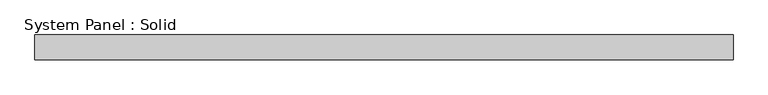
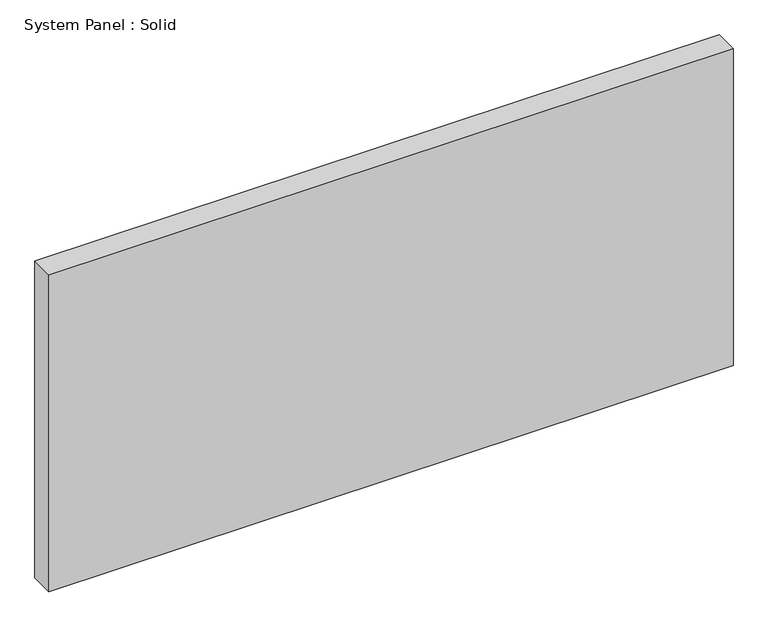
"""IFC4 building model written with IfcOpenShell, lengths in millimetres: plate geometry, System Panel : Solid."""

import ifcopenshell
import ifcopenshell.guid

model = None  # the IFC model being written
_history = None  # IfcOwnerHistory: only IFC2X3 demands one
_inside = {}  # id of a spatial element -> (the spatial element, [elements in it])
_under = {}  # id of a project, library or spatial element -> (it, [spatial elements below it])
_declared = {}  # id of a project -> (the project, [libraries it declares])
_typed = {}  # id of a type object -> (the type object, [elements of that type])
_made_of = {}  # id of a material, layer set ... -> (it, [elements and type objects made of it])


def new_model(schema):
    """Start an empty IFC model of exactly this schema.

    Asked for "IFC4X3", IfcOpenShell would pick the latest addendum, in which some entities
    have other attributes; the version numbers below select the first issue.
    IFC2X3 requires an IfcOwnerHistory on every rooted entity: one is made here for all.
    """
    global model, _history
    if schema == "IFC4X3":
        model = ifcopenshell.file(schema_version=(4, 3, 0, 0))
    else:
        model = ifcopenshell.file(schema=schema)
    _inside.clear()
    _under.clear()
    _declared.clear()
    _typed.clear()
    _made_of.clear()
    _history = None
    if model.schema == "IFC2X3":
        org = make("IfcOrganization", Name="unknown")
        user = make(
            "IfcPersonAndOrganization",
            ThePerson=make("IfcPerson", FamilyName="unknown"),
            TheOrganization=org,
        )
        app = make(
            "IfcApplication",
            ApplicationDeveloper=org,
            Version="unknown",
            ApplicationFullName="unknown",
            ApplicationIdentifier="unknown",
        )
        _history = make(
            "IfcOwnerHistory",
            OwningUser=user,
            OwningApplication=app,
            ChangeAction="ADDED",
            CreationDate=0,
        )
    return model


def make(cls, **values):
    """One entity of the class cls with the attributes given. An attribute that is None is left unset."""
    return model.create_entity(
        cls, **{name: value for name, value in values.items() if value is not None}
    )


def rooted(cls, **values):
    """An entity with a GlobalId (a new one), such as an element, a storey or a relation."""
    return make(cls, GlobalId=ifcopenshell.guid.new(), OwnerHistory=_history, **values)


def si_unit(unit_type, name, prefix=None):
    """IfcSIUnit, for example si_unit("LENGTHUNIT", "METRE", prefix="MILLI")."""
    return make("IfcSIUnit", UnitType=unit_type, Prefix=prefix, Name=name)


def assignment(units):
    """IfcUnitAssignment: the units of a project."""
    return None if units is None else make("IfcUnitAssignment", Units=units)


def point(xyz):
    """IfcCartesianPoint."""
    return None if xyz is None else make("IfcCartesianPoint", Coordinates=xyz)


def direction(xyz):
    """IfcDirection."""
    return None if xyz is None else make("IfcDirection", DirectionRatios=xyz)


def frame(location, z_axis=None, x_axis=None):
    """IfcAxis2Placement3D, a coordinate frame: its origin and axes. An axis left out is left unset."""
    return make(
        "IfcAxis2Placement3D",
        Location=point(location),
        Axis=direction(z_axis),
        RefDirection=direction(x_axis),
    )


def origin():
    """The frame at (0, 0, 0) with its axes left unset."""
    return frame((0.0, 0.0, 0.0))


def origin_with_axes():
    """The frame at (0, 0, 0) with the z axis (0, 0, 1) and the x axis (1, 0, 0) written out."""
    return frame((0.0, 0.0, 0.0), z_axis=(0.0, 0.0, 1.0), x_axis=(1.0, 0.0, 0.0))


def place(relative_to, where):
    """IfcLocalPlacement: puts the frame where relative to a parent placement (None: the world)."""
    return make(
        "IfcLocalPlacement", PlacementRelTo=relative_to, RelativePlacement=where
    )


def context(
    kind, dimensions, precision=None, world=None, true_north=None, identifier=None
):
    """IfcGeometricRepresentationContext, for example the 3D "Model" context."""
    return make(
        "IfcGeometricRepresentationContext",
        ContextIdentifier=identifier,
        ContextType=kind,
        CoordinateSpaceDimension=dimensions,
        Precision=precision,
        WorldCoordinateSystem=world,
        TrueNorth=true_north,
    )


def project(units=None, contexts=None):
    """IfcProject with its units and contexts."""
    return rooted(
        "IfcProject",
        Name="project",
        RepresentationContexts=contexts,
        UnitsInContext=assignment(units),
    )


def spatial(cls, under=None, at=None, **own):
    """A site, building, storey or space (cls), placed at a placement, below another one or the project."""
    s = rooted(cls, ObjectPlacement=at, **own)
    if under is not None:
        _under.setdefault(under.id(), (under, []))[1].append(s)
    return s


def polyline(points):
    """IfcPolyline through the points."""
    return make("IfcPolyline", Points=[point(p) for p in points])


def outline(outer, holes=None, kind="AREA"):
    """IfcArbitraryClosedProfileDef: a profile drawn as a closed curve; with holes, ...WithVoids."""
    if holes is None:
        return make("IfcArbitraryClosedProfileDef", ProfileType=kind, OuterCurve=outer)
    return make(
        "IfcArbitraryProfileDefWithVoids",
        ProfileType=kind,
        OuterCurve=outer,
        InnerCurves=holes,
    )


def extrude(swept, where, along, depth):
    """IfcExtrudedAreaSolid: the profile swept, set in the frame where, extruded along a direction by depth."""
    return make(
        "IfcExtrudedAreaSolid",
        SweptArea=swept,
        Position=where,
        ExtrudedDirection=direction(along),
        Depth=depth,
    )


def shape(context_of_items, identifier, shape_type, items):
    """IfcShapeRepresentation: the items that make up one representation, for example the "Body"."""
    return make(
        "IfcShapeRepresentation",
        ContextOfItems=context_of_items,
        RepresentationIdentifier=identifier,
        RepresentationType=shape_type,
        Items=items,
    )


def source(mapping_origin, context_of_items, identifier, shape_type, items):
    """IfcRepresentationMap: a shape defined once, which mapped items show again and again."""
    return make(
        "IfcRepresentationMap",
        MappingOrigin=mapping_origin,
        MappedRepresentation=shape(context_of_items, identifier, shape_type, items),
    )


def transform(
    local_origin,
    x_axis=None,
    y_axis=None,
    z_axis=None,
    scale=None,
    scale2=None,
    scale3=None,
    uniform=True,
):
    """IfcCartesianTransformationOperator3D, or its non-uniform kind. x_axis, y_axis, z_axis: its Axis1, 2, 3."""
    if uniform:
        return make(
            "IfcCartesianTransformationOperator3D",
            Axis1=direction(x_axis),
            Axis2=direction(y_axis),
            LocalOrigin=point(local_origin),
            Scale=scale,
            Axis3=direction(z_axis),
        )
    return make(
        "IfcCartesianTransformationOperator3DnonUniform",
        Axis1=direction(x_axis),
        Axis2=direction(y_axis),
        LocalOrigin=point(local_origin),
        Scale=scale,
        Axis3=direction(z_axis),
        Scale2=scale2,
        Scale3=scale3,
    )


def mapped(mapping_source, mapping_target):
    """IfcMappedItem: shows the shape of a source again, moved by a transform."""
    return make(
        "IfcMappedItem", MappingSource=mapping_source, MappingTarget=mapping_target
    )


def made_of(thing, what):
    """Note that an element or type object is made of a material, layer set ...; save() writes the relation."""
    if what is not None:
        _made_of.setdefault(what.id(), (what, []))[1].append(thing)
    return thing


def element(
    cls,
    number,
    at=None,
    inside=None,
    cuts=None,
    type_object=None,
    material=None,
    context=None,
    identifier="Body",
    shape_type=None,
    held_by="IfcProductDefinitionShape",
    body=None,
    shapes=None,
    **own,
):
    """One element of the class cls, such as IfcWall. Its Tag is "e" and its number.

    at: its placement. inside: the storey or other place that contains it. cuts: it is an
    opening in that element (IfcRelVoidsElement). A single representation is given by context,
    identifier, shape_type and body (its items); several are given by shapes. held_by: the class
    of the entity that holds the representations. save() writes the other relations.
    """
    e = rooted(cls, Tag="e%d" % number, ObjectPlacement=at, **own)
    if body is not None:
        shapes = [shape(context, identifier, shape_type, body)]
    if shapes is not None:
        e.Representation = make(held_by, Representations=shapes)
    if inside is not None:
        _inside.setdefault(inside.id(), (inside, []))[1].append(e)
    if cuts is not None:
        rooted(
            "IfcRelVoidsElement", RelatingBuildingElement=cuts, RelatedOpeningElement=e
        )
    if type_object is not None:
        _typed.setdefault(type_object.id(), (type_object, []))[1].append(e)
    return made_of(e, material)


def aggregate(whole, parts):
    """IfcRelAggregates: a whole, such as a stair, and the parts it consists of."""
    return rooted("IfcRelAggregates", RelatingObject=whole, RelatedObjects=parts)


def save(model, path):
    """Write the relations noted so far, then the file.

    IfcRelAggregates (storeys below a building ...), IfcRelContainedInSpatialStructure (elements
    in a storey), IfcRelDefinesByType, IfcRelAssociatesMaterial and IfcRelDeclares: one each for
    every whole, place, type object, material and project.
    """
    for whole, parts in _under.values():
        aggregate(whole, parts)
    for where, things in _inside.values():
        rooted(
            "IfcRelContainedInSpatialStructure",
            RelatedElements=things,
            RelatingStructure=where,
        )
    for kind, things in _typed.values():
        rooted("IfcRelDefinesByType", RelatedObjects=things, RelatingType=kind)
    for what, things in _made_of.values():
        rooted("IfcRelAssociatesMaterial", RelatedObjects=things, RelatingMaterial=what)
    for by, libraries in _declared.values():
        rooted("IfcRelDeclares", RelatingContext=by, RelatedDefinitions=libraries)
    model.write(path)


def system_panel_solid_f70b4fc8(model_context):
    return source(origin(), model_context, "Body", "SweptSolid", [
        extrude(outline(polyline([(891.9986512, -19.05), (-891.9986512, -19.05), (-891.9986512, 44.45), (891.9986512, 44.45), (891.9986512, -19.05)])), origin_with_axes(), (0.0, 0.0, 1.0), 873.1346896),
    ])


if __name__ == "__main__":
    model = new_model("IFC4")
    model_context = context("Model", 3, world=origin())
    ifc_project = project(units=[si_unit("LENGTHUNIT", "METRE", prefix="MILLI")], contexts=[model_context])
    site = spatial("IfcSite", under=ifc_project)
    building = spatial("IfcBuilding", under=site)
    placement = place(None, origin())
    system_panel_solid_shape = system_panel_solid_f70b4fc8(model_context)
    element("IfcPlate", 1, ObjectType="System Panel : Solid", at=placement, inside=building, context=model_context, shape_type="MappedRepresentation", body=[
        mapped(system_panel_solid_shape, transform((0.0, 0.0, 0.0), x_axis=(1.0, 0.0, 0.0), y_axis=(0.0, 1.0, 0.0), z_axis=(0.0, 0.0, 1.0))),
    ])
    save(model, "model.ifc")
